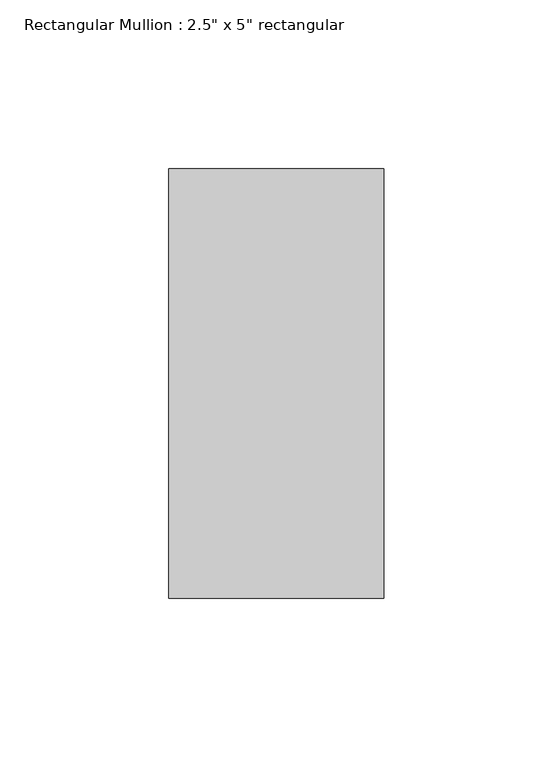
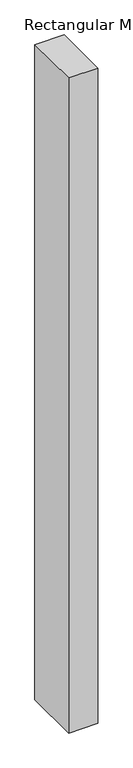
"""IFC4 building model written with IfcOpenShell, lengths in millimetres: member geometry."""

from ifc_helpers import new_model, si_unit, frame, origin, place, context, project, spatial, polyline, outline, extrude, source, transform, mapped, element, save


def member_69c58ec1(model_context):
    return source(origin(), model_context, "Body", "SweptSolid", [
        extrude(outline(polyline([(0.0, 63.5), (0.0, -63.5), (-63.5, -63.5), (-63.5, 63.5), (0.0, 63.5)])), frame((0.0, 0.0, -1511.3), z_axis=(0.0, 0.0, 1.0), x_axis=(1.0, 0.0, 0.0)), (0.0, 0.0, 1.0), 1511.3),
    ])


if __name__ == "__main__":
    model = new_model("IFC4")
    model_context = context("Model", 3, world=origin())
    ifc_project = project(units=[si_unit("LENGTHUNIT", "METRE", prefix="MILLI")], contexts=[model_context])
    site = spatial("IfcSite", under=ifc_project)
    building = spatial("IfcBuilding", under=site)
    placement = place(None, origin())
    member_shape = member_69c58ec1(model_context)
    element("IfcMember", 1, ObjectType="Rectangular Mullion : 2.5\" x 5\" rectangular", at=placement, inside=building, context=model_context, shape_type="MappedRepresentation", body=[
        mapped(member_shape, transform((0.0, 0.0, 0.0), x_axis=(1.0, 0.0, 0.0), y_axis=(0.0, 1.0, 0.0), z_axis=(0.0, 0.0, 1.0))),
    ])
    save(model, "model.ifc")
